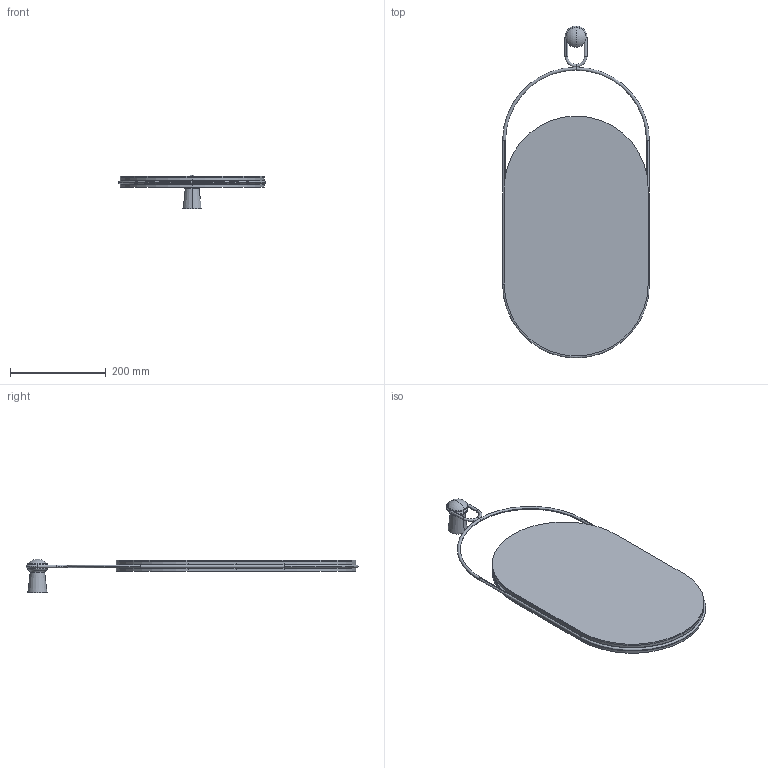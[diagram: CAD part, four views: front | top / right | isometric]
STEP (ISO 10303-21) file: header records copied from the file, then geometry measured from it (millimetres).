
FILE_DESCRIPTION (( 'STEP AP214' ), '1' );
FILE_NAME ('ESPEJO_ESLABON.STEP', '2021-03-02T08:47:31', ( '' ), ( '' ), 'SwSTEP 2.0', 'SolidWorks 2016', '' );
FILE_SCHEMA (( 'AUTOMOTIVE_DESIGN' ));
Length unit declared in the file: millimetre
Products named in the file (5): ESPEJO; ANCLAJE_TORNEADO_PENDIENTE; TRASERA_ESPEJO; ESPEJO_ESLABON; VARILLA_ESLABÓN
Assembly tree (4 placements, depth 2):
  ESPEJO_ESLABON
    TRASERA_ESPEJO
    VARILLA_ESLABÓN
    ESPEJO
    ANCLAJE_TORNEADO_PENDIENTE
Bounding box: 306 x 692 x 70 mm (x, y, z)
Volume: 3081640.9 mm3; surface area: 606058 mm2
Topology: 5 solids, 5 shells, 104 faces, 222 edges, 127 vertices
Faces by surface type: torus 42, cylinder 30, plane 26, cone 4, sphere 2
Entity records: 3028 total; most frequent: DIRECTION 595, CARTESIAN_POINT 460, ORIENTED_EDGE 444, AXIS2_PLACEMENT_3D 262, EDGE_CURVE 222, CIRCLE 151, VERTEX_POINT 127, EDGE_LOOP 107
